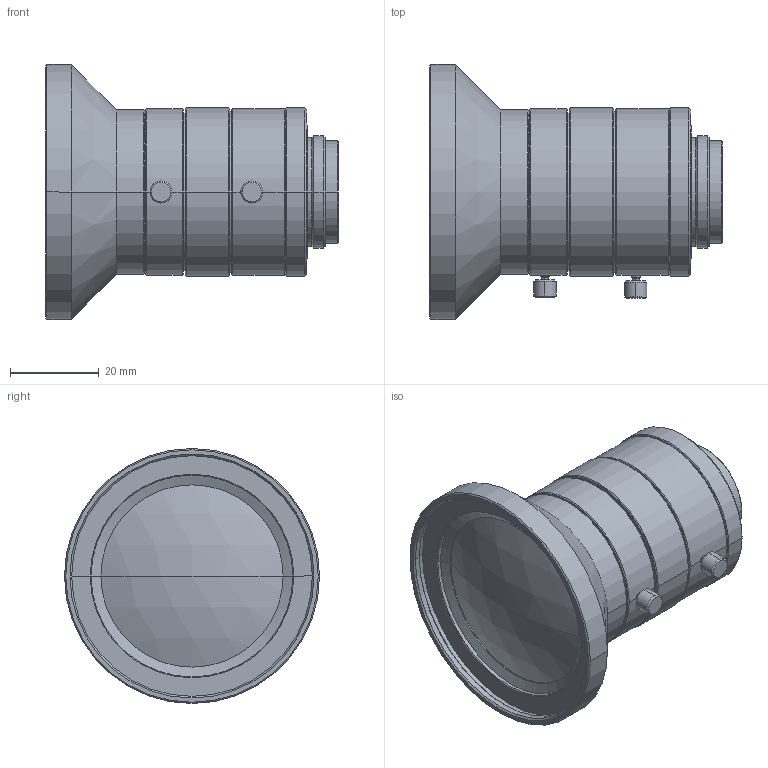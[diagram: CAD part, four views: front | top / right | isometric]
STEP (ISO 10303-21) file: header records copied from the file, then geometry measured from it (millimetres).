
FILE_DESCRIPTION (( 'STEP AP203' ), '1' );
FILE_NAME ('VS-0814H1N.STEP', '2020-07-30T06:41:58', ( '' ), ( '' ), 'SwSTEP 2.0', 'SolidWorks 2020', '' );
FILE_SCHEMA (( 'CONFIG_CONTROL_DESIGN' ));
Length unit declared in the file: millimetre
Products named in the file (1): VS-0814H1N
Bounding box: 66 x 57.5 x 57.5 mm (x, y, z)
Volume: 76042.5 mm3; surface area: 14424.6 mm2
Topology: 1 solids, 1 shells, 127 faces, 258 edges, 148 vertices
Faces by surface type: cone 60, cylinder 46, plane 17, sphere 4
Entity records: 3427 total; most frequent: DIRECTION 648, CARTESIAN_POINT 602, ORIENTED_EDGE 516, AXIS2_PLACEMENT_3D 270, EDGE_CURVE 258, VERTEX_POINT 148, CIRCLE 142, EDGE_LOOP 142
